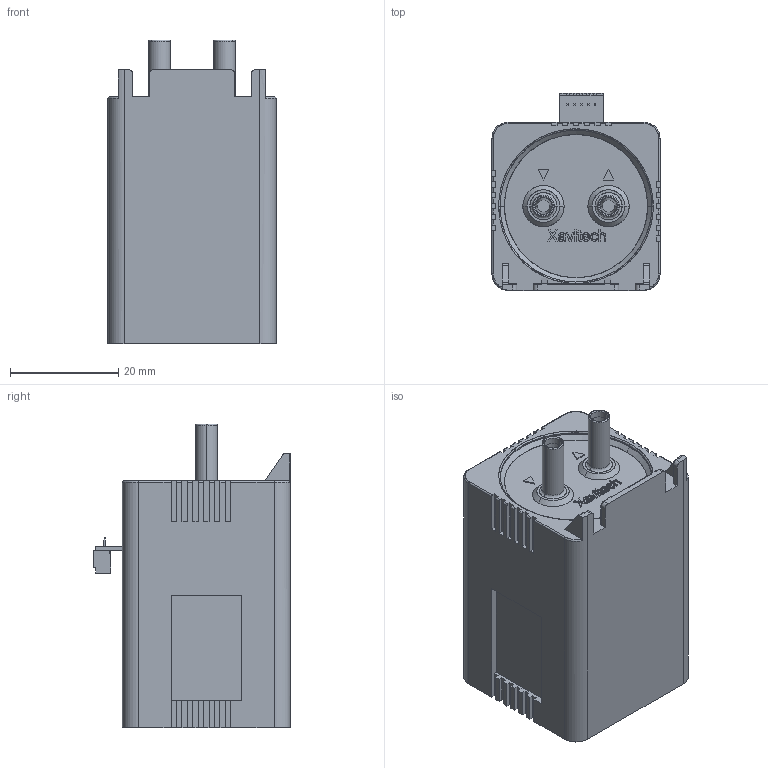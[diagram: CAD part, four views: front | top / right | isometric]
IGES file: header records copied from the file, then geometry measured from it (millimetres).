
Start section: SolidWorks IGES file using analytic representation for surfaces
Global section: file name: \\XSERVER\Xavitech Data\Produktion\Standardprodukter\Mekanik\Assembly\X1500\Pump dummies for web\X1500-Black-edition-3 and 5 wires v1 150423.SLDPRT.IGS; native system: SolidWorks 2014; preprocessor: SolidWorks 2014; author: JGP01; date: 150423.134955; units: millimetre
Bounding box: 31 x 36.3 x 56.05 mm (x, y, z)
Surface area: 8923 mm2 (no closed solid volume)
Topology: 0 solids, 0 shells, 497 faces, 3896 edges, 3896 vertices
Faces by surface type: bspline 431, revolution 66
